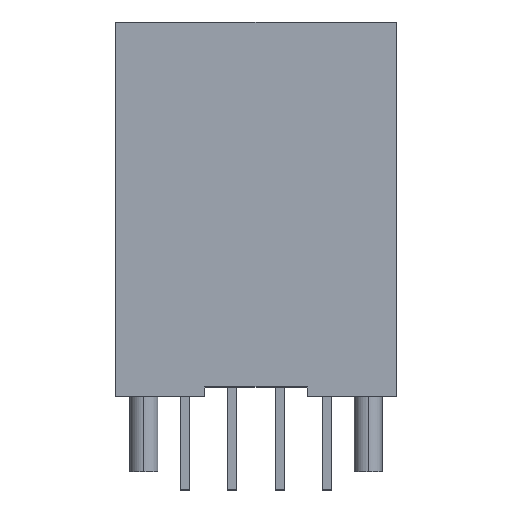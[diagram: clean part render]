
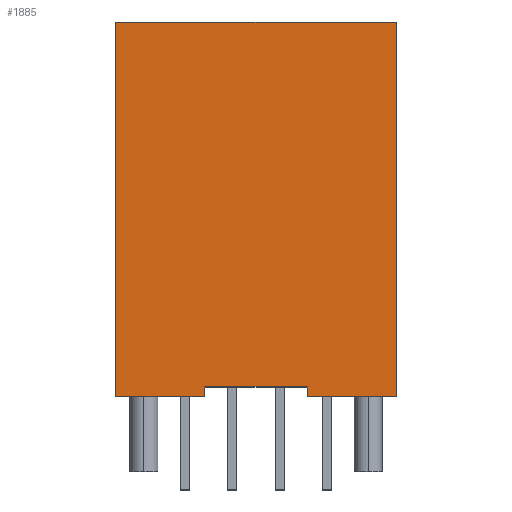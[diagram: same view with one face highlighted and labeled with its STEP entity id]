
A CAD part, top view. The second image highlights one B-rep face of the part: STEP entity #1885.
In plain terms, the highlighted planar face has unit normal (0, 0, 1).
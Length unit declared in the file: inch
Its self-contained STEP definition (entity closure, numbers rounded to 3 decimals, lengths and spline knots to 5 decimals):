
#7 = DIRECTION ( 'NONE',  ( 1., 0., 0. ) ) ;
#65 = EDGE_CURVE ( 'NONE', #159, #1847, #2990, .T. ) ;
#131 = LINE ( 'NONE', #901, #2809 ) ;
#159 = VERTEX_POINT ( 'NONE', #1160 ) ;
#184 = ORIENTED_EDGE ( 'NONE', *, *, #2351, .F. ) ;
#241 = PLANE ( 'NONE',  #2654 ) ;
#332 = CARTESIAN_POINT ( 'NONE',  ( 0.10827, 0.01969, 0.29528 ) ) ;
#337 = CARTESIAN_POINT ( 'NONE',  ( -0.29528, 0.7874, 0.29528 ) ) ;
#385 = CARTESIAN_POINT ( 'NONE',  ( -0.10827, 0.01969, 0.29528 ) ) ;
#402 = CARTESIAN_POINT ( 'NONE',  ( -0.29528, 0., 0.29528 ) ) ;
#406 = EDGE_CURVE ( 'NONE', #2353, #2144, #789, .T. ) ;
#543 = VERTEX_POINT ( 'NONE', #1316 ) ;
#567 = EDGE_CURVE ( 'NONE', #1681, #1847, #2528, .T. ) ;
#591 = VECTOR ( 'NONE', #1583, 39.37008 ) ;
#613 = ORIENTED_EDGE ( 'NONE', *, *, #1876, .F. ) ;
#633 = VECTOR ( 'NONE', #7, 39.37008 ) ;
#646 = DIRECTION ( 'NONE',  ( 0., -1., 0. ) ) ;
#693 = ORIENTED_EDGE ( 'NONE', *, *, #567, .T. ) ;
#746 = ORIENTED_EDGE ( 'NONE', *, *, #65, .F. ) ;
#789 = LINE ( 'NONE', #1256, #2966 ) ;
#847 = DIRECTION ( 'NONE',  ( 0., -1., 0. ) ) ;
#848 = EDGE_LOOP ( 'NONE', ( #746, #184, #2698, #2265, #2977, #613, #866, #693 ) ) ;
#866 = ORIENTED_EDGE ( 'NONE', *, *, #2140, .T. ) ;
#901 = CARTESIAN_POINT ( 'NONE',  ( 0.29528, 0.7874, 0.29528 ) ) ;
#910 = CARTESIAN_POINT ( 'NONE',  ( -0.29528, 0.7874, 0.29528 ) ) ;
#970 = VECTOR ( 'NONE', #847, 39.37008 ) ;
#1098 = LINE ( 'NONE', #337, #970 ) ;
#1160 = CARTESIAN_POINT ( 'NONE',  ( -0.10827, 0.01969, 0.29528 ) ) ;
#1256 = CARTESIAN_POINT ( 'NONE',  ( 0.10827, 0.01969, 0.29528 ) ) ;
#1316 = CARTESIAN_POINT ( 'NONE',  ( 0.29528, 0., 0.29528 ) ) ;
#1419 = CARTESIAN_POINT ( 'NONE',  ( -0.29528, 0.01969, 0.29528 ) ) ;
#1564 = LINE ( 'NONE', #910, #633 ) ;
#1574 = VERTEX_POINT ( 'NONE', #1791 ) ;
#1583 = DIRECTION ( 'NONE',  ( 1., 0., 0. ) ) ;
#1624 = DIRECTION ( 'NONE',  ( 0., 0., -1. ) ) ;
#1665 = VECTOR ( 'NONE', #2286, 39.37008 ) ;
#1681 = VERTEX_POINT ( 'NONE', #2272 ) ;
#1719 = CARTESIAN_POINT ( 'NONE',  ( 0.29528, 0.7874, 0.29528 ) ) ;
#1755 = VECTOR ( 'NONE', #2507, 39.37008 ) ;
#1791 = CARTESIAN_POINT ( 'NONE',  ( -0.29528, 0.7874, 0.29528 ) ) ;
#1795 = CARTESIAN_POINT ( 'NONE',  ( 0.10827, 0., 0.29528 ) ) ;
#1840 = EDGE_CURVE ( 'NONE', #2882, #543, #131, .T. ) ;
#1847 = VERTEX_POINT ( 'NONE', #2800 ) ;
#1876 = EDGE_CURVE ( 'NONE', #1574, #2882, #1564, .T. ) ;
#1885 = ADVANCED_FACE ( 'NONE', ( #3021 ), #241, .F. ) ;
#2039 = LINE ( 'NONE', #2786, #591 ) ;
#2082 = CARTESIAN_POINT ( 'NONE',  ( -0.29528, 0.7874, 0.29528 ) ) ;
#2095 = DIRECTION ( 'NONE',  ( -1., 0., 0. ) ) ;
#2140 = EDGE_CURVE ( 'NONE', #1574, #1681, #1098, .T. ) ;
#2144 = VERTEX_POINT ( 'NONE', #1795 ) ;
#2254 = DIRECTION ( 'NONE',  ( 1., 0., 0. ) ) ;
#2265 = ORIENTED_EDGE ( 'NONE', *, *, #2884, .T. ) ;
#2272 = CARTESIAN_POINT ( 'NONE',  ( -0.29528, 0., 0.29528 ) ) ;
#2286 = DIRECTION ( 'NONE',  ( 0., -1., 0. ) ) ;
#2351 = EDGE_CURVE ( 'NONE', #2353, #159, #2677, .T. ) ;
#2353 = VERTEX_POINT ( 'NONE', #332 ) ;
#2507 = DIRECTION ( 'NONE',  ( -1., 0., 0. ) ) ;
#2528 = LINE ( 'NONE', #402, #2725 ) ;
#2654 = AXIS2_PLACEMENT_3D ( 'NONE', #2082, #1624, #2095 ) ;
#2677 = LINE ( 'NONE', #1419, #1755 ) ;
#2698 = ORIENTED_EDGE ( 'NONE', *, *, #406, .T. ) ;
#2714 = DIRECTION ( 'NONE',  ( 0., -1., 0. ) ) ;
#2725 = VECTOR ( 'NONE', #2254, 39.37008 ) ;
#2786 = CARTESIAN_POINT ( 'NONE',  ( -0.29528, 0., 0.29528 ) ) ;
#2800 = CARTESIAN_POINT ( 'NONE',  ( -0.10827, 0., 0.29528 ) ) ;
#2809 = VECTOR ( 'NONE', #646, 39.37008 ) ;
#2882 = VERTEX_POINT ( 'NONE', #1719 ) ;
#2884 = EDGE_CURVE ( 'NONE', #2144, #543, #2039, .T. ) ;
#2966 = VECTOR ( 'NONE', #2714, 39.37008 ) ;
#2977 = ORIENTED_EDGE ( 'NONE', *, *, #1840, .F. ) ;
#2990 = LINE ( 'NONE', #385, #1665 ) ;
#3021 = FACE_OUTER_BOUND ( 'NONE', #848, .T. ) ;
